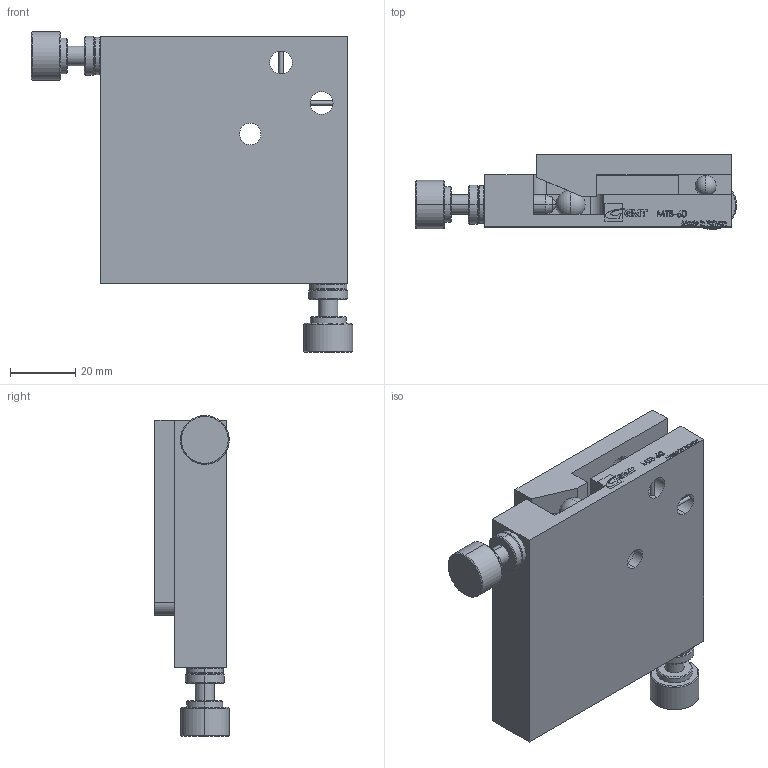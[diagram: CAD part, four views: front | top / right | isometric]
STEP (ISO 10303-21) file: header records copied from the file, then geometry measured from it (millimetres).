
FILE_DESCRIPTION (( 'STEP AP203' ), '1' );
FILE_NAME ('MTB-60.STEP', '2008-07-17T13:00:50', ( '陳志豪' ), ( '高明鐵企業股份有限公司' ), 'SwSTEP 2.0', 'SolidWorks 2007', '' );
FILE_SCHEMA (( 'CONFIG_CONTROL_DESIGN' ));
Length unit declared in the file: millimetre
Products named in the file (1): MTB-60
Bounding box: 98.8 x 22.9 x 98.73 mm (x, y, z)
Volume: 92753.5 mm3; surface area: 30991.8 mm2
Topology: 5 solids, 6 shells, 494 faces, 1294 edges, 851 vertices
Faces by surface type: plane 241, cylinder 118, bspline 89, cone 36, sphere 10
Entity records: 20182 total; most frequent: CARTESIAN_POINT 8385, ORIENTED_EDGE 2554, DIRECTION 2155, EDGE_CURVE 1277, VERTEX_POINT 842, LINE 803, VECTOR 803, AXIS2_PLACEMENT_3D 676
